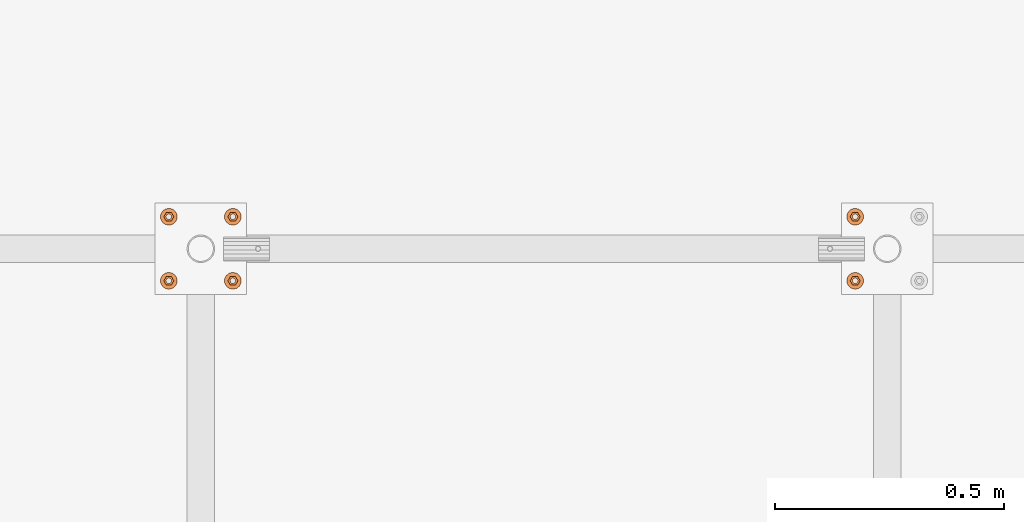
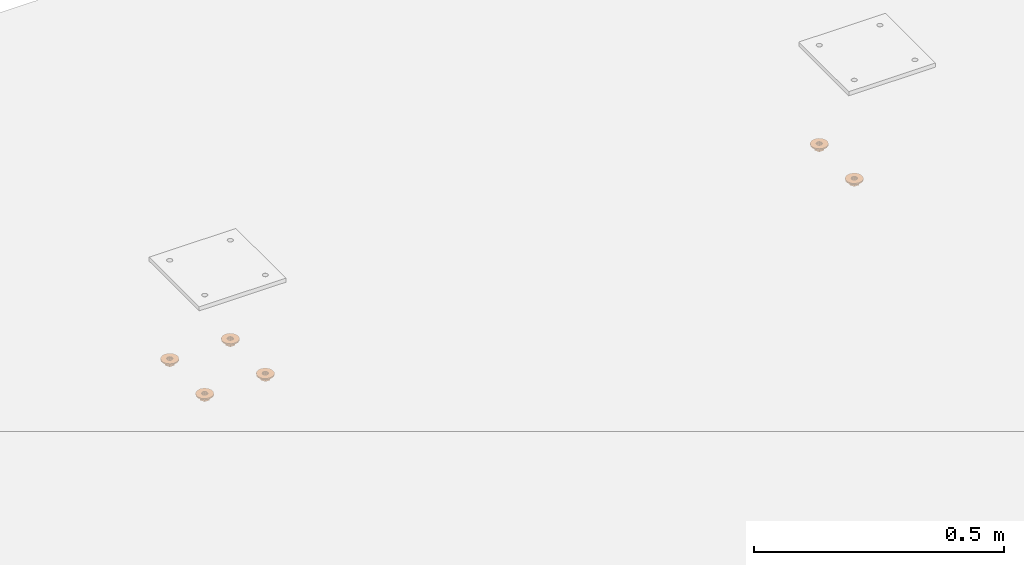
# One storey, part 29 of 30: 12 proxies.
"""IFC2X3 building model written with IfcOpenShell, lengths in millimetres."""

from ifc_helpers import new_model, entity, si_unit, converted_unit, origin_with_axes, place, context, project, spatial, faceted_brep, material, element, save


model = new_model("IFC2X3")

# Units and contexts
model_context = context("Model", 3, precision=1e-09, world=origin_with_axes())
ifc_project = project(units=[si_unit("LENGTHUNIT", "METRE", prefix="MILLI"), si_unit("AREAUNIT", "SQUARE_METRE"), si_unit("VOLUMEUNIT", "CUBIC_METRE"), converted_unit("PLANEANGLEUNIT", "DEGREE", entity("IfcPlaneAngleMeasure", 0.01745329), si_unit("PLANEANGLEUNIT", "RADIAN"), dimensions=[0, 0, 0, 0, 0, 0, 0])], contexts=[model_context])

# Site, building, storey
site_placement = place(None, origin_with_axes())
site = spatial("IfcSite", under=ifc_project, at=site_placement, Name="M?nsinger Stra?e, 81477 M?nchen", CompositionType="ELEMENT")
building_placement = place(site_placement, origin_with_axes())
building = spatial("IfcBuilding", under=site, at=building_placement, Name="Struktur 1", CompositionType="ELEMENT")
storey_placement = place(building_placement, origin_with_axes())
storey = spatial("IfcBuildingStorey", under=building, at=storey_placement, Name="Default Storey", CompositionType="ELEMENT", Elevation=0.0)

# Proxies
ifc_material = material(Name="Kein")
proxy_1_placement = place(None, origin_with_axes())
element("IfcBuildingElementProxy", 1, at=proxy_1_placement, inside=storey, material=ifc_material, ObjectType="-", context=model_context, shape_type="Brep", body=[
    faceted_brep([(5821.851234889, 4572.797820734, 6512.0), (5821.851234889, 4572.797820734, 6515.0), (5828.288268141, 4577.931183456, 6515.0), (5828.288268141, 4577.931183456, 6512.0), (5818.278950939, 4565.379896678, 6515.0), (5818.278950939, 4557.146622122, 6515.0), (5821.851234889, 4549.728698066, 6515.0), (5828.288268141, 4544.595335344, 6515.0), (5836.315117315, 4542.7632594, 6515.0), (5844.341966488, 4544.595335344, 6515.0), (5850.77899974, 4549.728698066, 6515.0), (5854.35128369, 4557.146622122, 6515.0), (5854.35128369, 4565.379896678, 6515.0), (5850.77899974, 4572.797820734, 6515.0), (5844.341966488, 4577.931183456, 6515.0), (5836.315117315, 4579.7632594, 6515.0), (5830.68595219, 4564.5132594, 6515.0), (5833.065117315, 4566.892424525, 6515.0), (5836.315117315, 4567.7632594, 6515.0), (5839.565117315, 4566.892424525, 6515.0), (5841.944282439, 4564.5132594, 6515.0), (5842.815117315, 4561.2632594, 6515.0), (5841.944282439, 4558.0132594, 6515.0), (5839.565117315, 4555.634094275, 6515.0), (5836.315117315, 4554.7632594, 6515.0), (5833.065117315, 4555.634094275, 6515.0), (5830.68595219, 4558.0132594, 6515.0), (5829.815117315, 4561.2632594, 6515.0), (5836.315117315, 4579.7632594, 6512.0), (5844.341966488, 4577.931183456, 6512.0), (5850.77899974, 4572.797820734, 6512.0), (5854.35128369, 4565.379896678, 6512.0), (5854.35128369, 4557.146622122, 6512.0), (5850.77899974, 4549.728698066, 6512.0), (5844.341966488, 4544.595335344, 6512.0), (5836.315117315, 4542.7632594, 6512.0), (5828.288268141, 4544.595335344, 6512.0), (5821.851234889, 4549.728698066, 6512.0), (5818.278950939, 4557.146622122, 6512.0), (5818.278950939, 4565.379896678, 6512.0), (5836.315117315, 4567.7632594, 6512.0), (5833.065117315, 4566.892424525, 6512.0), (5830.68595219, 4564.5132594, 6512.0), (5829.815117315, 4561.2632594, 6512.0), (5830.68595219, 4558.0132594, 6512.0), (5833.065117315, 4555.634094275, 6512.0), (5836.315117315, 4554.7632594, 6512.0), (5839.565117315, 4555.634094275, 6512.0), (5841.944282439, 4558.0132594, 6512.0), (5842.815117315, 4561.2632594, 6512.0), (5841.944282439, 4564.5132594, 6512.0), (5839.565117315, 4566.892424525, 6512.0)], [[[0, 1, 2, 3]], [[4, 5, 6, 7, 8, 9, 10, 11, 12, 13, 14, 15, 2, 1], [16, 17, 18, 19, 20, 21, 22, 23, 24, 25, 26, 27]], [[28, 29, 30, 31, 32, 33, 34, 35, 36, 37, 38, 39, 0, 3], [40, 41, 42, 43, 44, 45, 46, 47, 48, 49, 50, 51]], [[1, 0, 39, 4]], [[41, 17, 16, 42]], [[17, 41, 40, 18]], [[3, 2, 15, 28]], [[4, 39, 38, 5]], [[42, 16, 27, 43]], [[18, 40, 51, 19]], [[28, 15, 14, 29]], [[5, 38, 37, 6]], [[43, 27, 26, 44]], [[19, 51, 50, 20]], [[29, 14, 13, 30]], [[6, 37, 36, 7]], [[44, 26, 25, 45]], [[20, 50, 49, 21]], [[30, 13, 12, 31]], [[7, 36, 35, 8]], [[45, 25, 24, 46]], [[48, 22, 21, 49]], [[31, 12, 11, 32]], [[23, 47, 46, 24]], [[22, 48, 47, 23]], [[8, 35, 34, 9]], [[32, 11, 10, 33]], [[9, 34, 33, 10]]]),
])
proxy_2_placement = place(None, origin_with_axes())
element("IfcBuildingElementProxy", 2, at=proxy_2_placement, inside=storey, material=ifc_material, ObjectType="-", context=model_context, shape_type="Brep", body=[
    faceted_brep([(5836.315117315, 4567.2632594, 6502.0), (5836.315117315, 4567.2632594, 6512.0), (5833.315117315, 4566.459411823, 6512.0), (5833.315117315, 4566.459411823, 6502.0), (5831.118964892, 4564.2632594, 6512.0), (5831.118964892, 4564.2632594, 6502.0), (5839.315117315, 4566.459411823, 6502.0), (5839.315117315, 4566.459411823, 6512.0), (5841.799944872, 4570.7632594, 6512.0), (5830.830289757, 4570.7632594, 6512.0), (5825.3454622, 4561.2632594, 6512.0), (5830.830289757, 4551.7632594, 6512.0), (5841.799944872, 4551.7632594, 6512.0), (5847.284772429, 4561.2632594, 6512.0), (5841.511269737, 4564.2632594, 6512.0), (5842.315117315, 4561.2632594, 6512.0), (5841.511269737, 4558.2632594, 6512.0), (5839.315117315, 4556.067106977, 6512.0), (5836.315117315, 4555.2632594, 6512.0), (5833.315117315, 4556.067106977, 6512.0), (5831.118964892, 4558.2632594, 6512.0), (5830.315117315, 4561.2632594, 6512.0), (5841.799944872, 4570.7632594, 6502.0), (5847.284772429, 4561.2632594, 6502.0), (5841.799944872, 4551.7632594, 6502.0), (5830.830289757, 4551.7632594, 6502.0), (5825.3454622, 4561.2632594, 6502.0), (5830.830289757, 4570.7632594, 6502.0), (5841.511269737, 4564.2632594, 6502.0), (5830.315117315, 4561.2632594, 6502.0), (5842.315117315, 4561.2632594, 6502.0), (5831.118964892, 4558.2632594, 6502.0), (5841.511269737, 4558.2632594, 6502.0), (5833.315117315, 4556.067106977, 6502.0), (5839.315117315, 4556.067106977, 6502.0), (5836.315117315, 4555.2632594, 6502.0)], [[[0, 1, 2, 3]], [[3, 2, 4, 5]], [[1, 0, 6, 7]], [[8, 9, 10, 11, 12, 13], [7, 14, 15, 16, 17, 18, 19, 20, 21, 4, 2, 1]], [[22, 23, 24, 25, 26, 27]], [[7, 6, 28, 14]], [[22, 27, 9, 8]], [[5, 4, 21, 29]], [[10, 9, 27, 26]], [[14, 28, 30, 15]], [[23, 22, 8, 13]], [[29, 21, 20, 31]], [[11, 10, 26, 25]], [[15, 30, 32, 16]], [[24, 23, 13, 12]], [[31, 20, 19, 33]], [[25, 24, 12, 11]], [[16, 32, 34, 17]], [[33, 19, 18, 35]], [[17, 34, 35, 18]]]),
])
proxy_3_placement = place(None, origin_with_axes())
element("IfcBuildingElementProxy", 3, at=proxy_3_placement, inside=storey, material=ifc_material, ObjectType="-", context=model_context, shape_type="Brep", body=[
    faceted_brep([(5836.315117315, 4427.2632594, 6502.0), (5836.315117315, 4427.2632594, 6512.0), (5833.315117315, 4426.459411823, 6512.0), (5833.315117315, 4426.459411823, 6502.0), (5831.118964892, 4424.2632594, 6512.0), (5831.118964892, 4424.2632594, 6502.0), (5839.315117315, 4426.459411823, 6502.0), (5839.315117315, 4426.459411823, 6512.0), (5841.799944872, 4430.7632594, 6512.0), (5830.830289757, 4430.7632594, 6512.0), (5825.3454622, 4421.2632594, 6512.0), (5830.830289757, 4411.7632594, 6512.0), (5841.799944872, 4411.7632594, 6512.0), (5847.284772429, 4421.2632594, 6512.0), (5841.511269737, 4424.2632594, 6512.0), (5842.315117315, 4421.2632594, 6512.0), (5841.511269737, 4418.2632594, 6512.0), (5839.315117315, 4416.067106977, 6512.0), (5836.315117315, 4415.2632594, 6512.0), (5833.315117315, 4416.067106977, 6512.0), (5831.118964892, 4418.2632594, 6512.0), (5830.315117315, 4421.2632594, 6512.0), (5841.799944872, 4430.7632594, 6502.0), (5847.284772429, 4421.2632594, 6502.0), (5841.799944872, 4411.7632594, 6502.0), (5830.830289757, 4411.7632594, 6502.0), (5825.3454622, 4421.2632594, 6502.0), (5830.830289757, 4430.7632594, 6502.0), (5841.511269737, 4424.2632594, 6502.0), (5830.315117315, 4421.2632594, 6502.0), (5842.315117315, 4421.2632594, 6502.0), (5831.118964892, 4418.2632594, 6502.0), (5841.511269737, 4418.2632594, 6502.0), (5833.315117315, 4416.067106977, 6502.0), (5839.315117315, 4416.067106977, 6502.0), (5836.315117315, 4415.2632594, 6502.0)], [[[0, 1, 2, 3]], [[3, 2, 4, 5]], [[1, 0, 6, 7]], [[8, 9, 10, 11, 12, 13], [7, 14, 15, 16, 17, 18, 19, 20, 21, 4, 2, 1]], [[22, 23, 24, 25, 26, 27]], [[7, 6, 28, 14]], [[22, 27, 9, 8]], [[5, 4, 21, 29]], [[10, 9, 27, 26]], [[14, 28, 30, 15]], [[23, 22, 8, 13]], [[29, 21, 20, 31]], [[11, 10, 26, 25]], [[15, 30, 32, 16]], [[24, 23, 13, 12]], [[31, 20, 19, 33]], [[25, 24, 12, 11]], [[16, 32, 34, 17]], [[33, 19, 18, 35]], [[17, 34, 35, 18]]]),
])
proxy_4_placement = place(None, origin_with_axes())
element("IfcBuildingElementProxy", 4, at=proxy_4_placement, inside=storey, material=ifc_material, ObjectType="-", context=model_context, shape_type="Brep", body=[
    faceted_brep([(5821.851234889, 4432.797820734, 6512.0), (5821.851234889, 4432.797820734, 6515.0), (5828.288268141, 4437.931183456, 6515.0), (5828.288268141, 4437.931183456, 6512.0), (5818.278950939, 4425.379896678, 6515.0), (5818.278950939, 4417.146622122, 6515.0), (5821.851234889, 4409.728698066, 6515.0), (5828.288268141, 4404.595335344, 6515.0), (5836.315117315, 4402.7632594, 6515.0), (5844.341966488, 4404.595335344, 6515.0), (5850.77899974, 4409.728698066, 6515.0), (5854.35128369, 4417.146622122, 6515.0), (5854.35128369, 4425.379896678, 6515.0), (5850.77899974, 4432.797820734, 6515.0), (5844.341966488, 4437.931183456, 6515.0), (5836.315117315, 4439.7632594, 6515.0), (5830.68595219, 4424.5132594, 6515.0), (5833.065117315, 4426.892424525, 6515.0), (5836.315117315, 4427.7632594, 6515.0), (5839.565117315, 4426.892424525, 6515.0), (5841.944282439, 4424.5132594, 6515.0), (5842.815117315, 4421.2632594, 6515.0), (5841.944282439, 4418.0132594, 6515.0), (5839.565117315, 4415.634094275, 6515.0), (5836.315117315, 4414.7632594, 6515.0), (5833.065117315, 4415.634094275, 6515.0), (5830.68595219, 4418.0132594, 6515.0), (5829.815117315, 4421.2632594, 6515.0), (5836.315117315, 4439.7632594, 6512.0), (5844.341966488, 4437.931183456, 6512.0), (5850.77899974, 4432.797820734, 6512.0), (5854.35128369, 4425.379896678, 6512.0), (5854.35128369, 4417.146622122, 6512.0), (5850.77899974, 4409.728698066, 6512.0), (5844.341966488, 4404.595335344, 6512.0), (5836.315117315, 4402.7632594, 6512.0), (5828.288268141, 4404.595335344, 6512.0), (5821.851234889, 4409.728698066, 6512.0), (5818.278950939, 4417.146622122, 6512.0), (5818.278950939, 4425.379896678, 6512.0), (5836.315117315, 4427.7632594, 6512.0), (5833.065117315, 4426.892424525, 6512.0), (5830.68595219, 4424.5132594, 6512.0), (5829.815117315, 4421.2632594, 6512.0), (5830.68595219, 4418.0132594, 6512.0), (5833.065117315, 4415.634094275, 6512.0), (5836.315117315, 4414.7632594, 6512.0), (5839.565117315, 4415.634094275, 6512.0), (5841.944282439, 4418.0132594, 6512.0), (5842.815117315, 4421.2632594, 6512.0), (5841.944282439, 4424.5132594, 6512.0), (5839.565117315, 4426.892424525, 6512.0)], [[[0, 1, 2, 3]], [[4, 5, 6, 7, 8, 9, 10, 11, 12, 13, 14, 15, 2, 1], [16, 17, 18, 19, 20, 21, 22, 23, 24, 25, 26, 27]], [[28, 29, 30, 31, 32, 33, 34, 35, 36, 37, 38, 39, 0, 3], [40, 41, 42, 43, 44, 45, 46, 47, 48, 49, 50, 51]], [[1, 0, 39, 4]], [[41, 17, 16, 42]], [[17, 41, 40, 18]], [[3, 2, 15, 28]], [[4, 39, 38, 5]], [[42, 16, 27, 43]], [[18, 40, 51, 19]], [[28, 15, 14, 29]], [[5, 38, 37, 6]], [[43, 27, 26, 44]], [[19, 51, 50, 20]], [[29, 14, 13, 30]], [[6, 37, 36, 7]], [[44, 26, 25, 45]], [[20, 50, 49, 21]], [[30, 13, 12, 31]], [[7, 36, 35, 8]], [[45, 25, 24, 46]], [[48, 22, 21, 49]], [[31, 12, 11, 32]], [[23, 47, 46, 24]], [[22, 48, 47, 23]], [[8, 35, 34, 9]], [[32, 11, 10, 33]], [[9, 34, 33, 10]]]),
])
proxy_5_placement = place(None, origin_with_axes())
element("IfcBuildingElementProxy", 5, at=proxy_5_placement, inside=storey, material=ifc_material, ObjectType="-", context=model_context, shape_type="Brep", body=[
    faceted_brep([(5961.851234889, 4432.797820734, 6512.0), (5961.851234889, 4432.797820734, 6515.0), (5968.288268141, 4437.931183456, 6515.0), (5968.288268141, 4437.931183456, 6512.0), (5958.278950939, 4425.379896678, 6515.0), (5958.278950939, 4417.146622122, 6515.0), (5961.851234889, 4409.728698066, 6515.0), (5968.288268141, 4404.595335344, 6515.0), (5976.315117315, 4402.7632594, 6515.0), (5984.341966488, 4404.595335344, 6515.0), (5990.77899974, 4409.728698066, 6515.0), (5994.35128369, 4417.146622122, 6515.0), (5994.35128369, 4425.379896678, 6515.0), (5990.77899974, 4432.797820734, 6515.0), (5984.341966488, 4437.931183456, 6515.0), (5976.315117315, 4439.7632594, 6515.0), (5970.68595219, 4424.5132594, 6515.0), (5973.065117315, 4426.892424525, 6515.0), (5976.315117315, 4427.7632594, 6515.0), (5979.565117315, 4426.892424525, 6515.0), (5981.944282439, 4424.5132594, 6515.0), (5982.815117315, 4421.2632594, 6515.0), (5981.944282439, 4418.0132594, 6515.0), (5979.565117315, 4415.634094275, 6515.0), (5976.315117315, 4414.7632594, 6515.0), (5973.065117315, 4415.634094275, 6515.0), (5970.68595219, 4418.0132594, 6515.0), (5969.815117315, 4421.2632594, 6515.0), (5976.315117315, 4439.7632594, 6512.0), (5984.341966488, 4437.931183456, 6512.0), (5990.77899974, 4432.797820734, 6512.0), (5994.35128369, 4425.379896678, 6512.0), (5994.35128369, 4417.146622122, 6512.0), (5990.77899974, 4409.728698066, 6512.0), (5984.341966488, 4404.595335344, 6512.0), (5976.315117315, 4402.7632594, 6512.0), (5968.288268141, 4404.595335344, 6512.0), (5961.851234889, 4409.728698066, 6512.0), (5958.278950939, 4417.146622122, 6512.0), (5958.278950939, 4425.379896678, 6512.0), (5976.315117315, 4427.7632594, 6512.0), (5973.065117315, 4426.892424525, 6512.0), (5970.68595219, 4424.5132594, 6512.0), (5969.815117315, 4421.2632594, 6512.0), (5970.68595219, 4418.0132594, 6512.0), (5973.065117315, 4415.634094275, 6512.0), (5976.315117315, 4414.7632594, 6512.0), (5979.565117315, 4415.634094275, 6512.0), (5981.944282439, 4418.0132594, 6512.0), (5982.815117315, 4421.2632594, 6512.0), (5981.944282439, 4424.5132594, 6512.0), (5979.565117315, 4426.892424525, 6512.0)], [[[0, 1, 2, 3]], [[4, 5, 6, 7, 8, 9, 10, 11, 12, 13, 14, 15, 2, 1], [16, 17, 18, 19, 20, 21, 22, 23, 24, 25, 26, 27]], [[28, 29, 30, 31, 32, 33, 34, 35, 36, 37, 38, 39, 0, 3], [40, 41, 42, 43, 44, 45, 46, 47, 48, 49, 50, 51]], [[1, 0, 39, 4]], [[41, 17, 16, 42]], [[17, 41, 40, 18]], [[3, 2, 15, 28]], [[4, 39, 38, 5]], [[42, 16, 27, 43]], [[18, 40, 51, 19]], [[28, 15, 14, 29]], [[5, 38, 37, 6]], [[43, 27, 26, 44]], [[19, 51, 50, 20]], [[29, 14, 13, 30]], [[6, 37, 36, 7]], [[44, 26, 25, 45]], [[20, 50, 49, 21]], [[30, 13, 12, 31]], [[7, 36, 35, 8]], [[45, 25, 24, 46]], [[48, 22, 21, 49]], [[31, 12, 11, 32]], [[23, 47, 46, 24]], [[22, 48, 47, 23]], [[8, 35, 34, 9]], [[32, 11, 10, 33]], [[9, 34, 33, 10]]]),
])
proxy_6_placement = place(None, origin_with_axes())
element("IfcBuildingElementProxy", 6, at=proxy_6_placement, inside=storey, material=ifc_material, ObjectType="-", context=model_context, shape_type="Brep", body=[
    faceted_brep([(5976.315117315, 4427.2632594, 6502.0), (5976.315117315, 4427.2632594, 6512.0), (5973.315117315, 4426.459411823, 6512.0), (5973.315117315, 4426.459411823, 6502.0), (5971.118964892, 4424.2632594, 6512.0), (5971.118964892, 4424.2632594, 6502.0), (5979.315117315, 4426.459411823, 6502.0), (5979.315117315, 4426.459411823, 6512.0), (5981.799944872, 4430.7632594, 6512.0), (5970.830289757, 4430.7632594, 6512.0), (5965.3454622, 4421.2632594, 6512.0), (5970.830289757, 4411.7632594, 6512.0), (5981.799944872, 4411.7632594, 6512.0), (5987.284772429, 4421.2632594, 6512.0), (5981.511269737, 4424.2632594, 6512.0), (5982.315117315, 4421.2632594, 6512.0), (5981.511269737, 4418.2632594, 6512.0), (5979.315117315, 4416.067106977, 6512.0), (5976.315117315, 4415.2632594, 6512.0), (5973.315117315, 4416.067106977, 6512.0), (5971.118964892, 4418.2632594, 6512.0), (5970.315117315, 4421.2632594, 6512.0), (5981.799944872, 4430.7632594, 6502.0), (5987.284772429, 4421.2632594, 6502.0), (5981.799944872, 4411.7632594, 6502.0), (5970.830289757, 4411.7632594, 6502.0), (5965.3454622, 4421.2632594, 6502.0), (5970.830289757, 4430.7632594, 6502.0), (5981.511269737, 4424.2632594, 6502.0), (5970.315117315, 4421.2632594, 6502.0), (5982.315117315, 4421.2632594, 6502.0), (5971.118964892, 4418.2632594, 6502.0), (5981.511269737, 4418.2632594, 6502.0), (5973.315117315, 4416.067106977, 6502.0), (5979.315117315, 4416.067106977, 6502.0), (5976.315117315, 4415.2632594, 6502.0)], [[[0, 1, 2, 3]], [[3, 2, 4, 5]], [[1, 0, 6, 7]], [[8, 9, 10, 11, 12, 13], [7, 14, 15, 16, 17, 18, 19, 20, 21, 4, 2, 1]], [[22, 23, 24, 25, 26, 27]], [[7, 6, 28, 14]], [[22, 27, 9, 8]], [[5, 4, 21, 29]], [[10, 9, 27, 26]], [[14, 28, 30, 15]], [[23, 22, 8, 13]], [[29, 21, 20, 31]], [[11, 10, 26, 25]], [[15, 30, 32, 16]], [[24, 23, 13, 12]], [[31, 20, 19, 33]], [[25, 24, 12, 11]], [[16, 32, 34, 17]], [[33, 19, 18, 35]], [[17, 34, 35, 18]]]),
])
proxy_7_placement = place(None, origin_with_axes())
element("IfcBuildingElementProxy", 7, at=proxy_7_placement, inside=storey, material=ifc_material, ObjectType="-", context=model_context, shape_type="Brep", body=[
    faceted_brep([(5976.315117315, 4567.2632594, 6502.0), (5976.315117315, 4567.2632594, 6512.0), (5973.315117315, 4566.459411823, 6512.0), (5973.315117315, 4566.459411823, 6502.0), (5971.118964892, 4564.2632594, 6512.0), (5971.118964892, 4564.2632594, 6502.0), (5979.315117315, 4566.459411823, 6502.0), (5979.315117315, 4566.459411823, 6512.0), (5981.799944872, 4570.7632594, 6512.0), (5970.830289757, 4570.7632594, 6512.0), (5965.3454622, 4561.2632594, 6512.0), (5970.830289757, 4551.7632594, 6512.0), (5981.799944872, 4551.7632594, 6512.0), (5987.284772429, 4561.2632594, 6512.0), (5981.511269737, 4564.2632594, 6512.0), (5982.315117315, 4561.2632594, 6512.0), (5981.511269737, 4558.2632594, 6512.0), (5979.315117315, 4556.067106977, 6512.0), (5976.315117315, 4555.2632594, 6512.0), (5973.315117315, 4556.067106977, 6512.0), (5971.118964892, 4558.2632594, 6512.0), (5970.315117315, 4561.2632594, 6512.0), (5981.799944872, 4570.7632594, 6502.0), (5987.284772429, 4561.2632594, 6502.0), (5981.799944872, 4551.7632594, 6502.0), (5970.830289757, 4551.7632594, 6502.0), (5965.3454622, 4561.2632594, 6502.0), (5970.830289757, 4570.7632594, 6502.0), (5981.511269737, 4564.2632594, 6502.0), (5970.315117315, 4561.2632594, 6502.0), (5982.315117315, 4561.2632594, 6502.0), (5971.118964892, 4558.2632594, 6502.0), (5981.511269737, 4558.2632594, 6502.0), (5973.315117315, 4556.067106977, 6502.0), (5979.315117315, 4556.067106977, 6502.0), (5976.315117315, 4555.2632594, 6502.0)], [[[0, 1, 2, 3]], [[3, 2, 4, 5]], [[1, 0, 6, 7]], [[8, 9, 10, 11, 12, 13], [7, 14, 15, 16, 17, 18, 19, 20, 21, 4, 2, 1]], [[22, 23, 24, 25, 26, 27]], [[7, 6, 28, 14]], [[22, 27, 9, 8]], [[5, 4, 21, 29]], [[10, 9, 27, 26]], [[14, 28, 30, 15]], [[23, 22, 8, 13]], [[29, 21, 20, 31]], [[11, 10, 26, 25]], [[15, 30, 32, 16]], [[24, 23, 13, 12]], [[31, 20, 19, 33]], [[25, 24, 12, 11]], [[16, 32, 34, 17]], [[33, 19, 18, 35]], [[17, 34, 35, 18]]]),
])
proxy_8_placement = place(None, origin_with_axes())
element("IfcBuildingElementProxy", 8, at=proxy_8_placement, inside=storey, material=ifc_material, ObjectType="-", context=model_context, shape_type="Brep", body=[
    faceted_brep([(5961.851234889, 4572.797820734, 6512.0), (5961.851234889, 4572.797820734, 6515.0), (5968.288268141, 4577.931183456, 6515.0), (5968.288268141, 4577.931183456, 6512.0), (5958.278950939, 4565.379896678, 6515.0), (5958.278950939, 4557.146622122, 6515.0), (5961.851234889, 4549.728698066, 6515.0), (5968.288268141, 4544.595335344, 6515.0), (5976.315117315, 4542.7632594, 6515.0), (5984.341966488, 4544.595335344, 6515.0), (5990.77899974, 4549.728698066, 6515.0), (5994.35128369, 4557.146622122, 6515.0), (5994.35128369, 4565.379896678, 6515.0), (5990.77899974, 4572.797820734, 6515.0), (5984.341966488, 4577.931183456, 6515.0), (5976.315117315, 4579.7632594, 6515.0), (5970.68595219, 4564.5132594, 6515.0), (5973.065117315, 4566.892424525, 6515.0), (5976.315117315, 4567.7632594, 6515.0), (5979.565117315, 4566.892424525, 6515.0), (5981.944282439, 4564.5132594, 6515.0), (5982.815117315, 4561.2632594, 6515.0), (5981.944282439, 4558.0132594, 6515.0), (5979.565117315, 4555.634094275, 6515.0), (5976.315117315, 4554.7632594, 6515.0), (5973.065117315, 4555.634094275, 6515.0), (5970.68595219, 4558.0132594, 6515.0), (5969.815117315, 4561.2632594, 6515.0), (5976.315117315, 4579.7632594, 6512.0), (5984.341966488, 4577.931183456, 6512.0), (5990.77899974, 4572.797820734, 6512.0), (5994.35128369, 4565.379896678, 6512.0), (5994.35128369, 4557.146622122, 6512.0), (5990.77899974, 4549.728698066, 6512.0), (5984.341966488, 4544.595335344, 6512.0), (5976.315117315, 4542.7632594, 6512.0), (5968.288268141, 4544.595335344, 6512.0), (5961.851234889, 4549.728698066, 6512.0), (5958.278950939, 4557.146622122, 6512.0), (5958.278950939, 4565.379896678, 6512.0), (5976.315117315, 4567.7632594, 6512.0), (5973.065117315, 4566.892424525, 6512.0), (5970.68595219, 4564.5132594, 6512.0), (5969.815117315, 4561.2632594, 6512.0), (5970.68595219, 4558.0132594, 6512.0), (5973.065117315, 4555.634094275, 6512.0), (5976.315117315, 4554.7632594, 6512.0), (5979.565117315, 4555.634094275, 6512.0), (5981.944282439, 4558.0132594, 6512.0), (5982.815117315, 4561.2632594, 6512.0), (5981.944282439, 4564.5132594, 6512.0), (5979.565117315, 4566.892424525, 6512.0)], [[[0, 1, 2, 3]], [[4, 5, 6, 7, 8, 9, 10, 11, 12, 13, 14, 15, 2, 1], [16, 17, 18, 19, 20, 21, 22, 23, 24, 25, 26, 27]], [[28, 29, 30, 31, 32, 33, 34, 35, 36, 37, 38, 39, 0, 3], [40, 41, 42, 43, 44, 45, 46, 47, 48, 49, 50, 51]], [[1, 0, 39, 4]], [[41, 17, 16, 42]], [[17, 41, 40, 18]], [[3, 2, 15, 28]], [[4, 39, 38, 5]], [[42, 16, 27, 43]], [[18, 40, 51, 19]], [[28, 15, 14, 29]], [[5, 38, 37, 6]], [[43, 27, 26, 44]], [[19, 51, 50, 20]], [[29, 14, 13, 30]], [[6, 37, 36, 7]], [[44, 26, 25, 45]], [[20, 50, 49, 21]], [[30, 13, 12, 31]], [[7, 36, 35, 8]], [[45, 25, 24, 46]], [[48, 22, 21, 49]], [[31, 12, 11, 32]], [[23, 47, 46, 24]], [[22, 48, 47, 23]], [[8, 35, 34, 9]], [[32, 11, 10, 33]], [[9, 34, 33, 10]]]),
])
proxy_9_placement = place(None, origin_with_axes())
element("IfcBuildingElementProxy", 9, at=proxy_9_placement, inside=storey, material=ifc_material, ObjectType="-", context=model_context, shape_type="Brep", body=[
    faceted_brep([(7321.851234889, 4572.797820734, 6512.0), (7321.851234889, 4572.797820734, 6515.0), (7328.288268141, 4577.931183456, 6515.0), (7328.288268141, 4577.931183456, 6512.0), (7318.278950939, 4565.379896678, 6515.0), (7318.278950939, 4557.146622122, 6515.0), (7321.851234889, 4549.728698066, 6515.0), (7328.288268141, 4544.595335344, 6515.0), (7336.315117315, 4542.7632594, 6515.0), (7344.341966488, 4544.595335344, 6515.0), (7350.77899974, 4549.728698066, 6515.0), (7354.35128369, 4557.146622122, 6515.0), (7354.35128369, 4565.379896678, 6515.0), (7350.77899974, 4572.797820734, 6515.0), (7344.341966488, 4577.931183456, 6515.0), (7336.315117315, 4579.7632594, 6515.0), (7330.68595219, 4564.5132594, 6515.0), (7333.065117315, 4566.892424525, 6515.0), (7336.315117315, 4567.7632594, 6515.0), (7339.565117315, 4566.892424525, 6515.0), (7341.944282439, 4564.5132594, 6515.0), (7342.815117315, 4561.2632594, 6515.0), (7341.944282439, 4558.0132594, 6515.0), (7339.565117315, 4555.634094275, 6515.0), (7336.315117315, 4554.7632594, 6515.0), (7333.065117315, 4555.634094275, 6515.0), (7330.68595219, 4558.0132594, 6515.0), (7329.815117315, 4561.2632594, 6515.0), (7336.315117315, 4579.7632594, 6512.0), (7344.341966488, 4577.931183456, 6512.0), (7350.77899974, 4572.797820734, 6512.0), (7354.35128369, 4565.379896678, 6512.0), (7354.35128369, 4557.146622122, 6512.0), (7350.77899974, 4549.728698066, 6512.0), (7344.341966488, 4544.595335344, 6512.0), (7336.315117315, 4542.7632594, 6512.0), (7328.288268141, 4544.595335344, 6512.0), (7321.851234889, 4549.728698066, 6512.0), (7318.278950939, 4557.146622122, 6512.0), (7318.278950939, 4565.379896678, 6512.0), (7336.315117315, 4567.7632594, 6512.0), (7333.065117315, 4566.892424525, 6512.0), (7330.68595219, 4564.5132594, 6512.0), (7329.815117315, 4561.2632594, 6512.0), (7330.68595219, 4558.0132594, 6512.0), (7333.065117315, 4555.634094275, 6512.0), (7336.315117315, 4554.7632594, 6512.0), (7339.565117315, 4555.634094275, 6512.0), (7341.944282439, 4558.0132594, 6512.0), (7342.815117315, 4561.2632594, 6512.0), (7341.944282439, 4564.5132594, 6512.0), (7339.565117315, 4566.892424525, 6512.0)], [[[0, 1, 2, 3]], [[4, 5, 6, 7, 8, 9, 10, 11, 12, 13, 14, 15, 2, 1], [16, 17, 18, 19, 20, 21, 22, 23, 24, 25, 26, 27]], [[28, 29, 30, 31, 32, 33, 34, 35, 36, 37, 38, 39, 0, 3], [40, 41, 42, 43, 44, 45, 46, 47, 48, 49, 50, 51]], [[1, 0, 39, 4]], [[41, 17, 16, 42]], [[17, 41, 40, 18]], [[3, 2, 15, 28]], [[4, 39, 38, 5]], [[42, 16, 27, 43]], [[18, 40, 51, 19]], [[28, 15, 14, 29]], [[5, 38, 37, 6]], [[43, 27, 26, 44]], [[19, 51, 50, 20]], [[29, 14, 13, 30]], [[6, 37, 36, 7]], [[44, 26, 25, 45]], [[20, 50, 49, 21]], [[30, 13, 12, 31]], [[7, 36, 35, 8]], [[45, 25, 24, 46]], [[48, 22, 21, 49]], [[31, 12, 11, 32]], [[23, 47, 46, 24]], [[22, 48, 47, 23]], [[8, 35, 34, 9]], [[32, 11, 10, 33]], [[9, 34, 33, 10]]]),
])
proxy_10_placement = place(None, origin_with_axes())
element("IfcBuildingElementProxy", 10, at=proxy_10_placement, inside=storey, material=ifc_material, ObjectType="-", context=model_context, shape_type="Brep", body=[
    faceted_brep([(7336.315117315, 4567.2632594, 6502.0), (7336.315117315, 4567.2632594, 6512.0), (7333.315117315, 4566.459411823, 6512.0), (7333.315117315, 4566.459411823, 6502.0), (7331.118964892, 4564.2632594, 6512.0), (7331.118964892, 4564.2632594, 6502.0), (7339.315117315, 4566.459411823, 6502.0), (7339.315117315, 4566.459411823, 6512.0), (7341.799944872, 4570.7632594, 6512.0), (7330.830289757, 4570.7632594, 6512.0), (7325.3454622, 4561.2632594, 6512.0), (7330.830289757, 4551.7632594, 6512.0), (7341.799944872, 4551.7632594, 6512.0), (7347.284772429, 4561.2632594, 6512.0), (7341.511269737, 4564.2632594, 6512.0), (7342.315117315, 4561.2632594, 6512.0), (7341.511269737, 4558.2632594, 6512.0), (7339.315117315, 4556.067106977, 6512.0), (7336.315117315, 4555.2632594, 6512.0), (7333.315117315, 4556.067106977, 6512.0), (7331.118964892, 4558.2632594, 6512.0), (7330.315117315, 4561.2632594, 6512.0), (7341.799944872, 4570.7632594, 6502.0), (7347.284772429, 4561.2632594, 6502.0), (7341.799944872, 4551.7632594, 6502.0), (7330.830289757, 4551.7632594, 6502.0), (7325.3454622, 4561.2632594, 6502.0), (7330.830289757, 4570.7632594, 6502.0), (7341.511269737, 4564.2632594, 6502.0), (7330.315117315, 4561.2632594, 6502.0), (7342.315117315, 4561.2632594, 6502.0), (7331.118964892, 4558.2632594, 6502.0), (7341.511269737, 4558.2632594, 6502.0), (7333.315117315, 4556.067106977, 6502.0), (7339.315117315, 4556.067106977, 6502.0), (7336.315117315, 4555.2632594, 6502.0)], [[[0, 1, 2, 3]], [[3, 2, 4, 5]], [[1, 0, 6, 7]], [[8, 9, 10, 11, 12, 13], [7, 14, 15, 16, 17, 18, 19, 20, 21, 4, 2, 1]], [[22, 23, 24, 25, 26, 27]], [[7, 6, 28, 14]], [[22, 27, 9, 8]], [[5, 4, 21, 29]], [[10, 9, 27, 26]], [[14, 28, 30, 15]], [[23, 22, 8, 13]], [[29, 21, 20, 31]], [[11, 10, 26, 25]], [[15, 30, 32, 16]], [[24, 23, 13, 12]], [[31, 20, 19, 33]], [[25, 24, 12, 11]], [[16, 32, 34, 17]], [[33, 19, 18, 35]], [[17, 34, 35, 18]]]),
])
proxy_11_placement = place(None, origin_with_axes())
element("IfcBuildingElementProxy", 11, at=proxy_11_placement, inside=storey, material=ifc_material, ObjectType="-", context=model_context, shape_type="Brep", body=[
    faceted_brep([(7336.315117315, 4427.2632594, 6502.0), (7336.315117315, 4427.2632594, 6512.0), (7333.315117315, 4426.459411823, 6512.0), (7333.315117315, 4426.459411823, 6502.0), (7331.118964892, 4424.2632594, 6512.0), (7331.118964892, 4424.2632594, 6502.0), (7339.315117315, 4426.459411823, 6502.0), (7339.315117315, 4426.459411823, 6512.0), (7341.799944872, 4430.7632594, 6512.0), (7330.830289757, 4430.7632594, 6512.0), (7325.3454622, 4421.2632594, 6512.0), (7330.830289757, 4411.7632594, 6512.0), (7341.799944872, 4411.7632594, 6512.0), (7347.284772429, 4421.2632594, 6512.0), (7341.511269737, 4424.2632594, 6512.0), (7342.315117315, 4421.2632594, 6512.0), (7341.511269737, 4418.2632594, 6512.0), (7339.315117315, 4416.067106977, 6512.0), (7336.315117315, 4415.2632594, 6512.0), (7333.315117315, 4416.067106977, 6512.0), (7331.118964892, 4418.2632594, 6512.0), (7330.315117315, 4421.2632594, 6512.0), (7341.799944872, 4430.7632594, 6502.0), (7347.284772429, 4421.2632594, 6502.0), (7341.799944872, 4411.7632594, 6502.0), (7330.830289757, 4411.7632594, 6502.0), (7325.3454622, 4421.2632594, 6502.0), (7330.830289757, 4430.7632594, 6502.0), (7341.511269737, 4424.2632594, 6502.0), (7330.315117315, 4421.2632594, 6502.0), (7342.315117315, 4421.2632594, 6502.0), (7331.118964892, 4418.2632594, 6502.0), (7341.511269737, 4418.2632594, 6502.0), (7333.315117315, 4416.067106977, 6502.0), (7339.315117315, 4416.067106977, 6502.0), (7336.315117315, 4415.2632594, 6502.0)], [[[0, 1, 2, 3]], [[3, 2, 4, 5]], [[1, 0, 6, 7]], [[8, 9, 10, 11, 12, 13], [7, 14, 15, 16, 17, 18, 19, 20, 21, 4, 2, 1]], [[22, 23, 24, 25, 26, 27]], [[7, 6, 28, 14]], [[22, 27, 9, 8]], [[5, 4, 21, 29]], [[10, 9, 27, 26]], [[14, 28, 30, 15]], [[23, 22, 8, 13]], [[29, 21, 20, 31]], [[11, 10, 26, 25]], [[15, 30, 32, 16]], [[24, 23, 13, 12]], [[31, 20, 19, 33]], [[25, 24, 12, 11]], [[16, 32, 34, 17]], [[33, 19, 18, 35]], [[17, 34, 35, 18]]]),
])
proxy_12_placement = place(None, origin_with_axes())
element("IfcBuildingElementProxy", 12, at=proxy_12_placement, inside=storey, material=ifc_material, ObjectType="-", context=model_context, shape_type="Brep", body=[
    faceted_brep([(7321.851234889, 4432.797820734, 6512.0), (7321.851234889, 4432.797820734, 6515.0), (7328.288268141, 4437.931183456, 6515.0), (7328.288268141, 4437.931183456, 6512.0), (7318.278950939, 4425.379896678, 6515.0), (7318.278950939, 4417.146622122, 6515.0), (7321.851234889, 4409.728698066, 6515.0), (7328.288268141, 4404.595335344, 6515.0), (7336.315117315, 4402.7632594, 6515.0), (7344.341966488, 4404.595335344, 6515.0), (7350.77899974, 4409.728698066, 6515.0), (7354.35128369, 4417.146622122, 6515.0), (7354.35128369, 4425.379896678, 6515.0), (7350.77899974, 4432.797820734, 6515.0), (7344.341966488, 4437.931183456, 6515.0), (7336.315117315, 4439.7632594, 6515.0), (7330.68595219, 4424.5132594, 6515.0), (7333.065117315, 4426.892424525, 6515.0), (7336.315117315, 4427.7632594, 6515.0), (7339.565117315, 4426.892424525, 6515.0), (7341.944282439, 4424.5132594, 6515.0), (7342.815117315, 4421.2632594, 6515.0), (7341.944282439, 4418.0132594, 6515.0), (7339.565117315, 4415.634094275, 6515.0), (7336.315117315, 4414.7632594, 6515.0), (7333.065117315, 4415.634094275, 6515.0), (7330.68595219, 4418.0132594, 6515.0), (7329.815117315, 4421.2632594, 6515.0), (7336.315117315, 4439.7632594, 6512.0), (7344.341966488, 4437.931183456, 6512.0), (7350.77899974, 4432.797820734, 6512.0), (7354.35128369, 4425.379896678, 6512.0), (7354.35128369, 4417.146622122, 6512.0), (7350.77899974, 4409.728698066, 6512.0), (7344.341966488, 4404.595335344, 6512.0), (7336.315117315, 4402.7632594, 6512.0), (7328.288268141, 4404.595335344, 6512.0), (7321.851234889, 4409.728698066, 6512.0), (7318.278950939, 4417.146622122, 6512.0), (7318.278950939, 4425.379896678, 6512.0), (7336.315117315, 4427.7632594, 6512.0), (7333.065117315, 4426.892424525, 6512.0), (7330.68595219, 4424.5132594, 6512.0), (7329.815117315, 4421.2632594, 6512.0), (7330.68595219, 4418.0132594, 6512.0), (7333.065117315, 4415.634094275, 6512.0), (7336.315117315, 4414.7632594, 6512.0), (7339.565117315, 4415.634094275, 6512.0), (7341.944282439, 4418.0132594, 6512.0), (7342.815117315, 4421.2632594, 6512.0), (7341.944282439, 4424.5132594, 6512.0), (7339.565117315, 4426.892424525, 6512.0)], [[[0, 1, 2, 3]], [[4, 5, 6, 7, 8, 9, 10, 11, 12, 13, 14, 15, 2, 1], [16, 17, 18, 19, 20, 21, 22, 23, 24, 25, 26, 27]], [[28, 29, 30, 31, 32, 33, 34, 35, 36, 37, 38, 39, 0, 3], [40, 41, 42, 43, 44, 45, 46, 47, 48, 49, 50, 51]], [[1, 0, 39, 4]], [[41, 17, 16, 42]], [[17, 41, 40, 18]], [[3, 2, 15, 28]], [[4, 39, 38, 5]], [[42, 16, 27, 43]], [[18, 40, 51, 19]], [[28, 15, 14, 29]], [[5, 38, 37, 6]], [[43, 27, 26, 44]], [[19, 51, 50, 20]], [[29, 14, 13, 30]], [[6, 37, 36, 7]], [[44, 26, 25, 45]], [[20, 50, 49, 21]], [[30, 13, 12, 31]], [[7, 36, 35, 8]], [[45, 25, 24, 46]], [[48, 22, 21, 49]], [[31, 12, 11, 32]], [[23, 47, 46, 24]], [[22, 48, 47, 23]], [[8, 35, 34, 9]], [[32, 11, 10, 33]], [[9, 34, 33, 10]]]),
])

save(model, "model.ifc")
